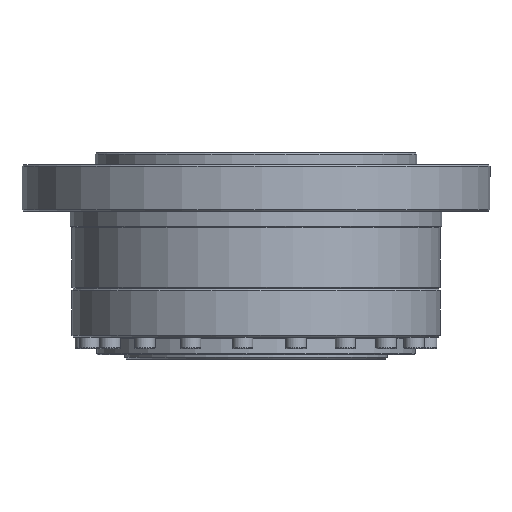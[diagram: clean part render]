
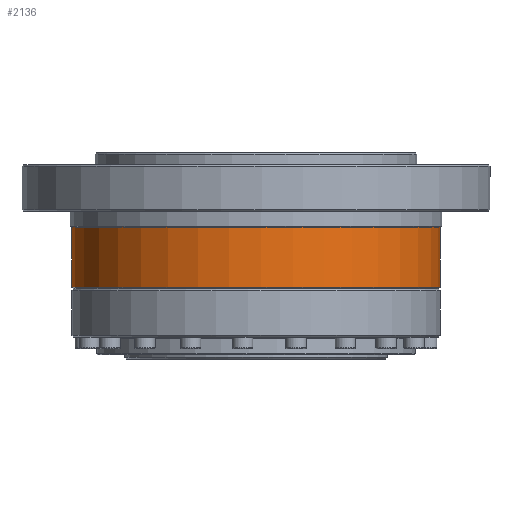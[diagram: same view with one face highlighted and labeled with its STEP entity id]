
A CAD part, front view. The second image highlights one B-rep face of the part: STEP entity #2136.
In plain terms, the highlighted cylindrical face has radius 63 mm (diameter 126 mm), a full revolution.
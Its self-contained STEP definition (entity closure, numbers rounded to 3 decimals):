
#580=FACE_OUTER_BOUND('',#4045,.T.);
#855=LINE('',#15184,#1088);
#1088=VECTOR('',#12009,1.);
#2136=ADVANCED_FACE('F12',(#580),#2757,.T.);
#2757=CYLINDRICAL_SURFACE('',#10353,63.);
#4045=EDGE_LOOP('',(#5261,#5262,#5263,#5264));
#5261=ORIENTED_EDGE('',*,*,#8362,.T.);
#5262=ORIENTED_EDGE('',*,*,#8363,.T.);
#5263=ORIENTED_EDGE('',*,*,#8362,.F.);
#5264=ORIENTED_EDGE('',*,*,#8361,.F.);
#7444=VERTEX_POINT('',#15181);
#7445=VERTEX_POINT('',#15185);
#8361=EDGE_CURVE('',#7444,#7444,#9490,.T.);
#8362=EDGE_CURVE('',#7444,#7445,#855,.T.);
#8363=EDGE_CURVE('',#7445,#7445,#9491,.T.);
#9490=CIRCLE('',#10350,63.);
#9491=CIRCLE('',#10352,63.);
#10350=AXIS2_PLACEMENT_3D('',#15182,#12005,#12006);
#10352=AXIS2_PLACEMENT_3D('',#15186,#12010,#12011);
#10353=AXIS2_PLACEMENT_3D('',#15187,#12012,#12013);
#12005=DIRECTION('',(0.,1.,0.));
#12006=DIRECTION('',(-1.,0.,0.));
#12009=DIRECTION('',(0.,-1.,0.));
#12010=DIRECTION('',(0.,1.,0.));
#12011=DIRECTION('',(-1.,0.,0.));
#12012=DIRECTION('',(0.,-1.,0.));
#12013=DIRECTION('',(-1.,0.,0.));
#15181=CARTESIAN_POINT('',(-63.,23.3,0.));
#15182=CARTESIAN_POINT('',(0.,23.3,0.));
#15184=CARTESIAN_POINT('',(-63.,23.3,0.));
#15185=CARTESIAN_POINT('',(-63.,2.8,0.));
#15186=CARTESIAN_POINT('',(0.,2.8,0.));
#15187=CARTESIAN_POINT('',(0.,23.3,0.));
